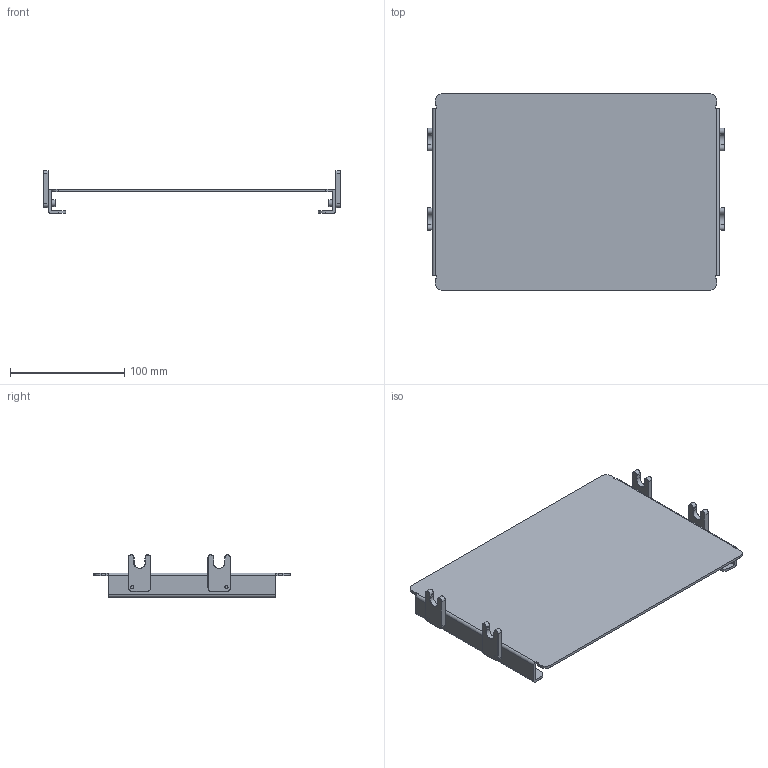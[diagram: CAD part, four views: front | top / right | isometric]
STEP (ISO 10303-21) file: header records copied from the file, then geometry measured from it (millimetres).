
FILE_DESCRIPTION((''),'2;1');
FILE_NAME('C:\old_Drawings\shrinkwrapped website .stp files\561462-STP.stp','2011-06-21T14:39:12',('GaryRobinson'),(''),'Autodesk Inventor 2011','Autodesk Inventor 2011','');
FILE_SCHEMA(('CONFIG_CONTROL_DESIGN'));
Length unit declared in the file: inch
Products named in the file (1): 561462-STP
Bounding box: 261.14 x 172.09 x 37.49 mm (x, y, z)
Surface area: 113451.8 mm2 (no closed solid volume)
Topology: 0 solids, 9 shells, 222 faces, 500 edges, 300 vertices
Faces by surface type: plane 110, cone 60, cylinder 52
Full cylindrical faces by diameter (mm): 3.505 x4, 5.74 x4
Entity records: 6332 total; most frequent: CARTESIAN_POINT 1107, DIRECTION 1066, ORIENTED_EDGE 976, EDGE_CURVE 488, AXIS2_PLACEMENT_3D 387, VERTEX_POINT 300, VECTOR 292, LINE 292
